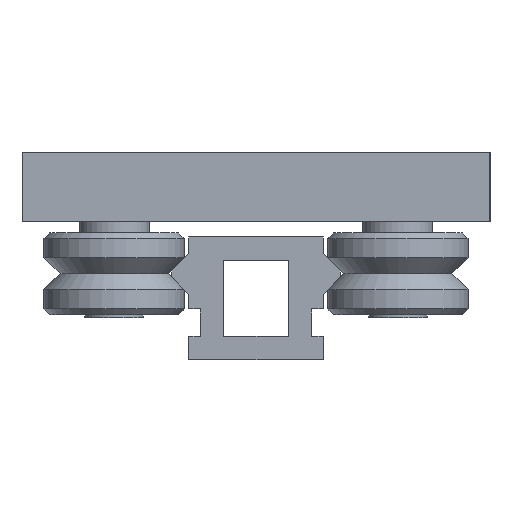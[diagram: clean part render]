
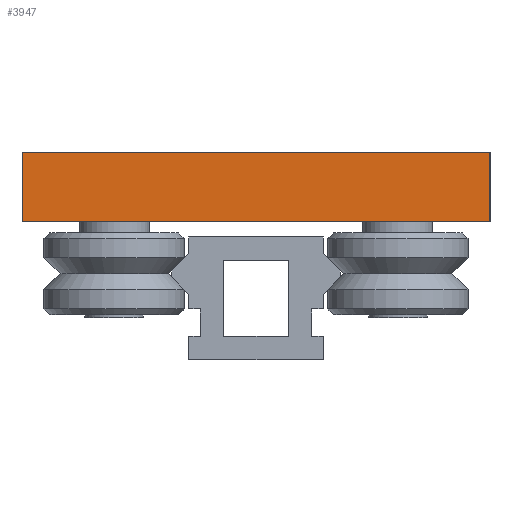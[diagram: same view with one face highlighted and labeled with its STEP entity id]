
A CAD part, left-side view. The second image highlights one B-rep face of the part: STEP entity #3947.
In plain terms, the highlighted planar face has unit normal (-1, 0, 0).
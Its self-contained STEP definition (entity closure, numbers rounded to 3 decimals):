
#3761=CARTESIAN_POINT('',(180.299,40.0,23.7));
#3762=VERTEX_POINT('',#3761);
#3769=CARTESIAN_POINT('',(180.299,40.0,35.5));
#3770=VERTEX_POINT('',#3769);
#3771=CARTESIAN_POINT('',(180.299,40.0,35.5));
#3772=DIRECTION('',(0.0,0.0,-1.0));
#3773=VECTOR('',#3772,11.8);
#3774=LINE('',#3771,#3773);
#3775=EDGE_CURVE('',#3770,#3762,#3774,.T.);
#3805=CARTESIAN_POINT('',(180.299,-40.0,23.7));
#3806=VERTEX_POINT('',#3805);
#3813=CARTESIAN_POINT('',(180.299,40.0,23.7));
#3814=DIRECTION('',(0.0,-1.0,0.0));
#3815=VECTOR('',#3814,80.0);
#3816=LINE('',#3813,#3815);
#3817=EDGE_CURVE('',#3762,#3806,#3816,.T.);
#3860=CARTESIAN_POINT('',(180.299,-40.0,35.5));
#3861=VERTEX_POINT('',#3860);
#3868=CARTESIAN_POINT('',(180.299,-40.0,23.7));
#3869=DIRECTION('',(0.0,0.0,1.0));
#3870=VECTOR('',#3869,11.8);
#3871=LINE('',#3868,#3870);
#3872=EDGE_CURVE('',#3806,#3861,#3871,.T.);
#3890=CARTESIAN_POINT('',(180.299,-40.0,35.5));
#3891=DIRECTION('',(0.0,1.0,0.0));
#3892=VECTOR('',#3891,80.0);
#3893=LINE('',#3890,#3892);
#3894=EDGE_CURVE('',#3861,#3770,#3893,.T.);
#3936=CARTESIAN_POINT('',(180.299,0.0,29.6));
#3937=DIRECTION('',(1.0,0.0,0.0));
#3938=DIRECTION('',(0.0,0.0,-1.0));
#3939=AXIS2_PLACEMENT_3D('',#3936,#3937,#3938);
#3940=PLANE('',#3939);
#3941=ORIENTED_EDGE('',*,*,#3894,.T.);
#3942=ORIENTED_EDGE('',*,*,#3775,.T.);
#3943=ORIENTED_EDGE('',*,*,#3817,.T.);
#3944=ORIENTED_EDGE('',*,*,#3872,.T.);
#3945=EDGE_LOOP('',(#3941,#3942,#3943,#3944));
#3946=FACE_OUTER_BOUND('',#3945,.T.);
#3947=ADVANCED_FACE('',(#3946),#3940,.F.);
